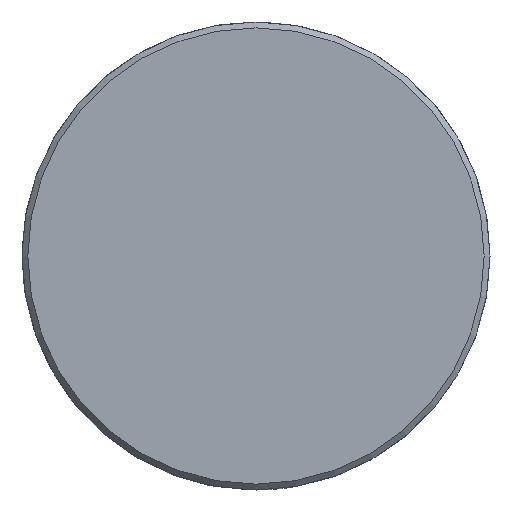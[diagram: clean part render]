
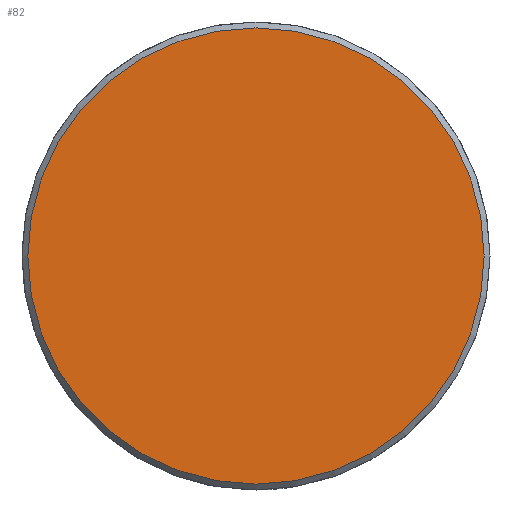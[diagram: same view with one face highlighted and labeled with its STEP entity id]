
A CAD part, front view. The second image highlights one B-rep face of the part: STEP entity #82.
In plain terms, the highlighted planar face has unit normal (0, -1, 0).
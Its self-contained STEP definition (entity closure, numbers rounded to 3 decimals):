
#82 = ADVANCED_FACE( '', ( #108 ), #109, .F. );
#108 = FACE_OUTER_BOUND( '', #141, .T. );
#109 = PLANE( '', #142 );
#141 = EDGE_LOOP( '', ( #216 ) );
#142 = AXIS2_PLACEMENT_3D( '', #217, #218, #219 );
#216 = ORIENTED_EDGE( '', *, *, #295, .T. );
#217 = CARTESIAN_POINT( '', ( 19.5, 0., 0. ) );
#218 = DIRECTION( '', ( 0., 1., 0. ) );
#219 = DIRECTION( '', ( 0., 0., 1. ) );
#295 = EDGE_CURVE( '', #349, #349, #350, .T. );
#349 = VERTEX_POINT( '', #505 );
#350 = CIRCLE( '', #506, 19.5 );
#505 = CARTESIAN_POINT( '', ( 0., 0., -19.5 ) );
#506 = AXIS2_PLACEMENT_3D( '', #570, #571, #572 );
#570 = CARTESIAN_POINT( '', ( 0., 0., 0. ) );
#571 = DIRECTION( '', ( 0., -1., 0. ) );
#572 = DIRECTION( '', ( 0., 0., -1. ) );
